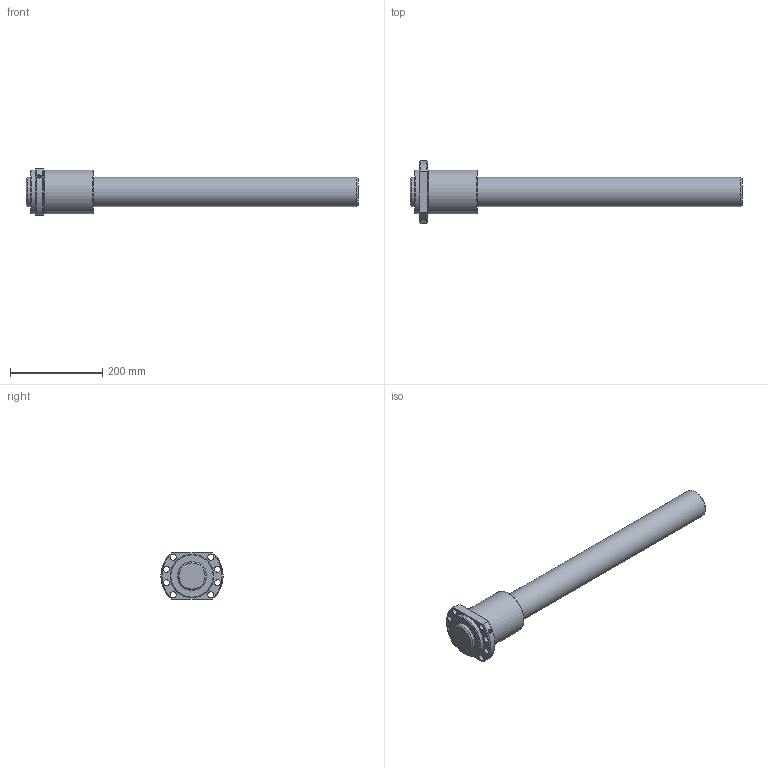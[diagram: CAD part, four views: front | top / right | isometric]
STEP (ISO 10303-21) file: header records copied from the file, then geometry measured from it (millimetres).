
FILE_DESCRIPTION(/* description */ ('STEP AP214'),/* implementation_level */ '2;1');
FILE_NAME(/* name */ 'EBB6320-3RRG0+720L C0(564G000)_rev',/* time_stamp */ '2023-08-03T13:17:47+02:00',/* author */ ('License CC BY-ND 4.0'),/* organization */ ('CADENAS'),/* preprocessor_version */ 'ST-DEVELOPER v19.3',/* originating_system */ 'PARTsolutions',/* authorisation */ ' ');
FILE_SCHEMA (('AUTOMOTIVE_DESIGN {1 0 10303 214 3 1 1}'));
Length unit declared in the file: millimetre
Products named in the file (3): EBB6320-3RRG0+720L C0(564G000)_rev; EBB 6320-3RR Nut1; EBB 6320-35640 Shaft1
Assembly tree (2 placements, depth 2):
  EBB6320-3RRG0+720L C0(564G000)_rev
    EBB 6320-3RR Nut1
    EBB 6320-35640 Shaft1
Bounding box: 720 x 135 x 100 mm (x, y, z)
Volume: 2847204.9 mm3; surface area: 240379.1 mm2
Topology: 2 solids, 2 shells, 34 faces, 77 edges, 50 vertices
Faces by surface type: cylinder 16, cone 9, plane 9
Full cylindrical faces by diameter (mm): 6.647 x1, 13.5 x8, 63 x2, 89.3 x1, 95 x2
Entity records: 1003 total; most frequent: CARTESIAN_POINT 187, DIRECTION 160, ORIENTED_EDGE 114, EDGE_LOOP 76, FACE_BOUND 76, AXIS2_PLACEMENT_3D 76, EDGE_CURVE 57, VERTEX_POINT 49
